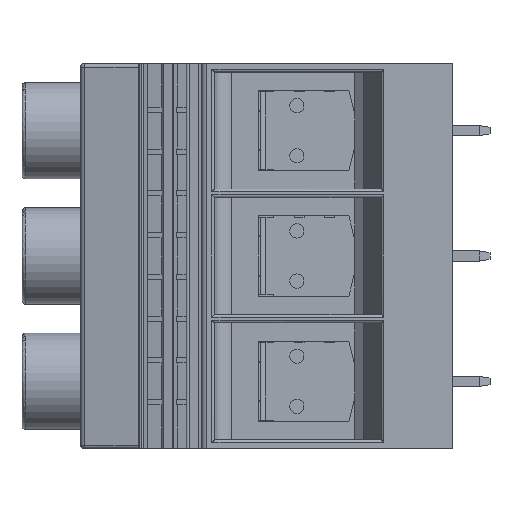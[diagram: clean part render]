
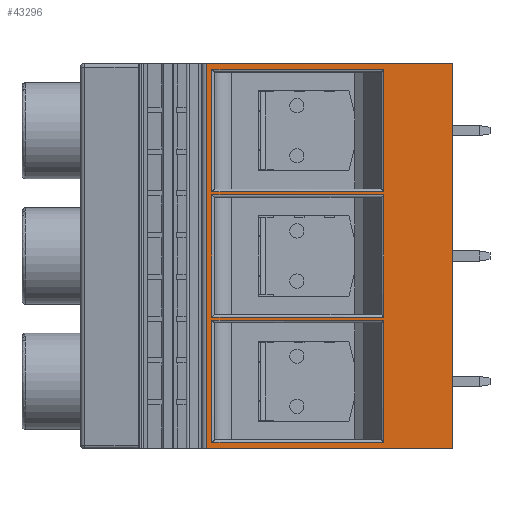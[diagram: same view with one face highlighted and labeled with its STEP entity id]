
A CAD part, left-side view. The second image highlights one B-rep face of the part: STEP entity #43296.
In plain terms, the highlighted planar face has unit normal (-1, 0, 0).
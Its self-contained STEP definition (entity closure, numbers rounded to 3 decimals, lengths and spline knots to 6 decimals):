
#2069=DIRECTION('',(0.,0.,-1.));
#2070=VECTOR('',#2069,0.0146);
#2071=CARTESIAN_POINT('',(0.,0.02877,-0.0152));
#2072=LINE('',#2071,#2070);
#2090=DIRECTION('',(0.,1.,0.));
#2091=VECTOR('',#2090,0.020576);
#2092=CARTESIAN_POINT('',(0.,0.008194,-0.0152));
#2093=LINE('',#2092,#2091);
#2094=DIRECTION('',(0.,-1.,0.));
#2095=VECTOR('',#2094,0.0294);
#2096=CARTESIAN_POINT('',(0.,0.0294,-0.0605));
#2097=LINE('',#2096,#2095);
#2098=DIRECTION('',(0.,1.,0.));
#2099=VECTOR('',#2098,0.0294);
#2100=CARTESIAN_POINT('',(0.,0.,-0.0145));
#2101=LINE('',#2100,#2099);
#2102=DIRECTION('',(0.,0.,1.));
#2103=VECTOR('',#2102,0.046);
#2104=CARTESIAN_POINT('',(0.,0.,-0.0605));
#2105=LINE('',#2104,#2103);
#2134=DIRECTION('',(0.,-1.,0.));
#2135=VECTOR('',#2134,0.020576);
#2136=CARTESIAN_POINT('',(0.,0.02877,-0.0298));
#2137=LINE('',#2136,#2135);
#2149=DIRECTION('',(0.,0.,1.));
#2150=VECTOR('',#2149,0.0146);
#2151=CARTESIAN_POINT('',(0.,0.008194,-0.0298));
#2152=LINE('',#2151,#2150);
#2170=DIRECTION('',(0.,0.,-1.));
#2171=VECTOR('',#2170,0.0146);
#2172=CARTESIAN_POINT('',(0.,0.02877,-0.0302));
#2173=LINE('',#2172,#2171);
#2182=DIRECTION('',(0.,-1.,0.));
#2183=VECTOR('',#2182,0.020576);
#2184=CARTESIAN_POINT('',(0.,0.02877,-0.0448));
#2185=LINE('',#2184,#2183);
#2226=DIRECTION('',(0.,1.,0.));
#2227=VECTOR('',#2226,0.020576);
#2228=CARTESIAN_POINT('',(0.,0.008194,-0.0302));
#2229=LINE('',#2228,#2227);
#3890=CARTESIAN_POINT('',(0.,0.02877,-0.0452));
#3909=DIRECTION('',(0.,0.,-1.));
#3910=VECTOR('',#3909,0.0146);
#3911=CARTESIAN_POINT('',(0.,0.02877,-0.0452));
#3912=LINE('',#3911,#3910);
#3922=DIRECTION('',(0.,1.,0.));
#3923=VECTOR('',#3922,0.020576);
#3924=CARTESIAN_POINT('',(0.,0.008194,-0.0452));
#3925=LINE('',#3924,#3923);
#3937=DIRECTION('',(0.,0.,1.));
#3938=VECTOR('',#3937,0.0146);
#3939=CARTESIAN_POINT('',(0.,0.008194,-0.0598));
#3940=LINE('',#3939,#3938);
#3950=CARTESIAN_POINT('',(0.,0.008194,-0.0598));
#3960=DIRECTION('',(0.,-1.,0.));
#3961=VECTOR('',#3960,0.020576);
#3962=CARTESIAN_POINT('',(0.,0.02877,-0.0598));
#3963=LINE('',#3962,#3961);
#14089=DIRECTION('',(0.,0.,1.));
#14090=VECTOR('',#14089,0.0146);
#14091=CARTESIAN_POINT('',(0.,0.008194,-0.0448));
#14092=LINE('',#14091,#14090);
#14093=DIRECTION('',(0.,0.,1.));
#14094=VECTOR('',#14093,0.046);
#14095=CARTESIAN_POINT('',(0.,0.0294,-0.0605));
#14096=LINE('',#14095,#14094);
#34108=CARTESIAN_POINT('',(0.,0.,-0.0145));
#34109=VERTEX_POINT('',#34108);
#34110=CARTESIAN_POINT('',(0.,0.0294,-0.0145));
#34111=VERTEX_POINT('',#34110);
#34226=CARTESIAN_POINT('',(0.,0.0294,-0.0605));
#34227=VERTEX_POINT('',#34226);
#34228=CARTESIAN_POINT('',(0.,0.,-0.0605));
#34229=VERTEX_POINT('',#34228);
#35257=VERTEX_POINT('',#3950);
#35258=CARTESIAN_POINT('',(0.,0.02877,-0.0598));
#35259=VERTEX_POINT('',#35258);
#35267=VERTEX_POINT('',#3890);
#35268=CARTESIAN_POINT('',(0.,0.008194,-0.0452));
#35269=VERTEX_POINT('',#35268);
#35270=CARTESIAN_POINT('',(0.,0.02877,-0.0448));
#35271=CARTESIAN_POINT('',(0.,0.008194,-0.0448));
#35272=VERTEX_POINT('',#35270);
#35273=VERTEX_POINT('',#35271);
#35274=CARTESIAN_POINT('',(0.,0.008194,-0.0302));
#35275=VERTEX_POINT('',#35274);
#35276=CARTESIAN_POINT('',(0.,0.02877,-0.0302));
#35277=VERTEX_POINT('',#35276);
#35278=CARTESIAN_POINT('',(0.,0.02877,-0.0152));
#35279=CARTESIAN_POINT('',(0.,0.02877,-0.0298));
#35280=VERTEX_POINT('',#35278);
#35281=VERTEX_POINT('',#35279);
#35282=CARTESIAN_POINT('',(0.,0.008194,-0.0298));
#35283=VERTEX_POINT('',#35282);
#35284=CARTESIAN_POINT('',(0.,0.008194,-0.0152));
#35285=VERTEX_POINT('',#35284);
#43256=CARTESIAN_POINT('',(0.,0.03,-0.0605));
#43257=DIRECTION('',(-1.,0.,0.));
#43258=DIRECTION('',(0.,-1.,0.));
#43259=AXIS2_PLACEMENT_3D('',#43256,#43257,#43258);
#43260=PLANE('',#43259);
#43261=ORIENTED_EDGE('',*,*,#40469,.F.);
#43263=ORIENTED_EDGE('',*,*,#43262,.T.);
#43264=ORIENTED_EDGE('',*,*,#40317,.F.);
#43265=ORIENTED_EDGE('',*,*,#42733,.F.);
#43266=EDGE_LOOP('',(#43261,#43263,#43264,#43265));
#43267=FACE_OUTER_BOUND('',#43266,.F.);
#43269=ORIENTED_EDGE('',*,*,#43268,.T.);
#43271=ORIENTED_EDGE('',*,*,#43270,.T.);
#43273=ORIENTED_EDGE('',*,*,#43272,.T.);
#43275=ORIENTED_EDGE('',*,*,#43274,.T.);
#43276=EDGE_LOOP('',(#43269,#43271,#43273,#43275));
#43277=FACE_BOUND('',#43276,.F.);
#43279=ORIENTED_EDGE('',*,*,#43278,.T.);
#43281=ORIENTED_EDGE('',*,*,#43280,.T.);
#43283=ORIENTED_EDGE('',*,*,#43282,.T.);
#43285=ORIENTED_EDGE('',*,*,#43284,.T.);
#43286=EDGE_LOOP('',(#43279,#43281,#43283,#43285));
#43287=FACE_BOUND('',#43286,.F.);
#43288=ORIENTED_EDGE('',*,*,#43249,.T.);
#43289=ORIENTED_EDGE('',*,*,#43236,.T.);
#43291=ORIENTED_EDGE('',*,*,#43290,.T.);
#43293=ORIENTED_EDGE('',*,*,#43292,.T.);
#43294=EDGE_LOOP('',(#43288,#43289,#43291,#43293));
#43295=FACE_BOUND('',#43294,.F.);
#43296=ADVANCED_FACE('',(#43267,#43277,#43287,#43295),#43260,.T.);
#40317=EDGE_CURVE('',#34109,#34111,#2101,.T.);
#40469=EDGE_CURVE('',#34227,#34229,#2097,.T.);
#42733=EDGE_CURVE('',#34229,#34109,#2105,.T.);
#43236=EDGE_CURVE('',#35280,#35281,#2072,.T.);
#43249=EDGE_CURVE('',#35285,#35280,#2093,.T.);
#43262=EDGE_CURVE('',#34227,#34111,#14096,.T.);
#43268=EDGE_CURVE('',#35277,#35272,#2173,.T.);
#43270=EDGE_CURVE('',#35272,#35273,#2185,.T.);
#43272=EDGE_CURVE('',#35273,#35275,#14092,.T.);
#43274=EDGE_CURVE('',#35275,#35277,#2229,.T.);
#43278=EDGE_CURVE('',#35257,#35269,#3940,.T.);
#43280=EDGE_CURVE('',#35269,#35267,#3925,.T.);
#43282=EDGE_CURVE('',#35267,#35259,#3912,.T.);
#43284=EDGE_CURVE('',#35259,#35257,#3963,.T.);
#43290=EDGE_CURVE('',#35281,#35283,#2137,.T.);
#43292=EDGE_CURVE('',#35283,#35285,#2152,.T.);
